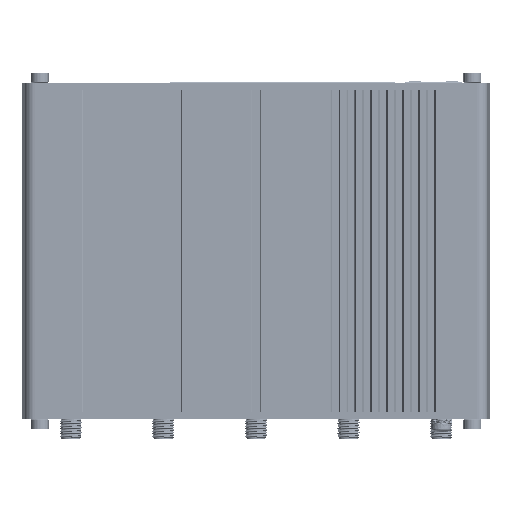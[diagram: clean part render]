
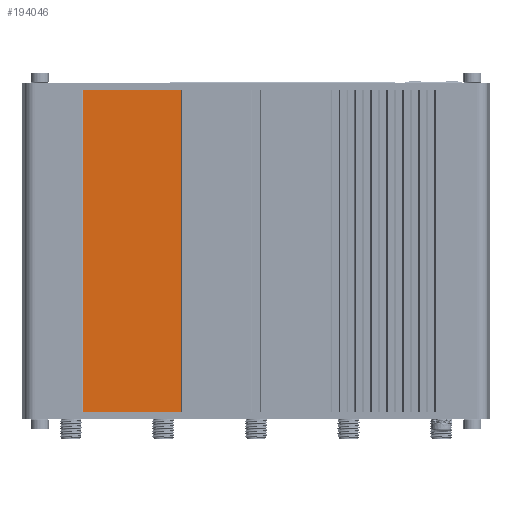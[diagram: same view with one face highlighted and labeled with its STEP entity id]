
A CAD part, front view. The second image highlights one B-rep face of the part: STEP entity #194046.
In plain terms, the highlighted planar face has unit normal (0, -1, 0).
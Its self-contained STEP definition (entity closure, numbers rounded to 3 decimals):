
#2887 = VECTOR ( 'NONE', #285346, 1000. ) ;
#38860 = VECTOR ( 'NONE', #284355, 1000. ) ;
#45842 = VERTEX_POINT ( 'NONE', #422884 ) ;
#55814 = VERTEX_POINT ( 'NONE', #88539 ) ;
#66203 = EDGE_CURVE ( 'NONE', #45842, #267854, #434345, .T. ) ;
#73301 = PLANE ( 'NONE',  #312463 ) ;
#83616 = CARTESIAN_POINT ( 'NONE',  ( -49., 5.024, 91. ) ) ;
#88539 = CARTESIAN_POINT ( 'NONE',  ( -21.1, 5.024, 91. ) ) ;
#93480 = ORIENTED_EDGE ( 'NONE', *, *, #66203, .F. ) ;
#123975 = EDGE_CURVE ( 'NONE', #45842, #55814, #492449, .T. ) ;
#125980 = VERTEX_POINT ( 'NONE', #262324 ) ;
#129525 = CARTESIAN_POINT ( 'NONE',  ( -21.1, 5.024, 91. ) ) ;
#133232 = LINE ( 'NONE', #83616, #2887 ) ;
#139332 = ORIENTED_EDGE ( 'NONE', *, *, #354441, .T. ) ;
#169344 = CARTESIAN_POINT ( 'NONE',  ( -48.9, 5.024, 0. ) ) ;
#194046 = ADVANCED_FACE ( 'NONE', ( #284675 ), #73301, .F. ) ;
#234301 = VECTOR ( 'NONE', #631351, 1000. ) ;
#245380 = ORIENTED_EDGE ( 'NONE', *, *, #123975, .T. ) ;
#262324 = CARTESIAN_POINT ( 'NONE',  ( -48.9, 5.024, 91. ) ) ;
#267854 = VERTEX_POINT ( 'NONE', #169344 ) ;
#284355 = DIRECTION ( 'NONE',  ( 0., 0., -1. ) ) ;
#284675 = FACE_OUTER_BOUND ( 'NONE', #323879, .T. ) ;
#285346 = DIRECTION ( 'NONE',  ( -1., 0., 0. ) ) ;
#312463 = AXIS2_PLACEMENT_3D ( 'NONE', #489108, #634514, #525704 ) ;
#323879 = EDGE_LOOP ( 'NONE', ( #93480, #245380, #139332, #388530 ) ) ;
#354441 = EDGE_CURVE ( 'NONE', #55814, #125980, #133232, .T. ) ;
#384843 = DIRECTION ( 'NONE',  ( -1., 0., 0. ) ) ;
#388530 = ORIENTED_EDGE ( 'NONE', *, *, #395741, .T. ) ;
#395741 = EDGE_CURVE ( 'NONE', #125980, #267854, #541541, .T. ) ;
#422884 = CARTESIAN_POINT ( 'NONE',  ( -21.1, 5.024, 0. ) ) ;
#434345 = LINE ( 'NONE', #523575, #611965 ) ;
#489108 = CARTESIAN_POINT ( 'NONE',  ( -49., 5.024, 0. ) ) ;
#492449 = LINE ( 'NONE', #129525, #234301 ) ;
#523575 = CARTESIAN_POINT ( 'NONE',  ( -49., 5.024, 0. ) ) ;
#525704 = DIRECTION ( 'NONE',  ( 0., 0., 1. ) ) ;
#541541 = LINE ( 'NONE', #591098, #38860 ) ;
#591098 = CARTESIAN_POINT ( 'NONE',  ( -48.9, 5.024, 0. ) ) ;
#611965 = VECTOR ( 'NONE', #384843, 1000. ) ;
#631351 = DIRECTION ( 'NONE',  ( 0., 0., 1. ) ) ;
#634514 = DIRECTION ( 'NONE',  ( 0., 1., 0. ) ) ;
